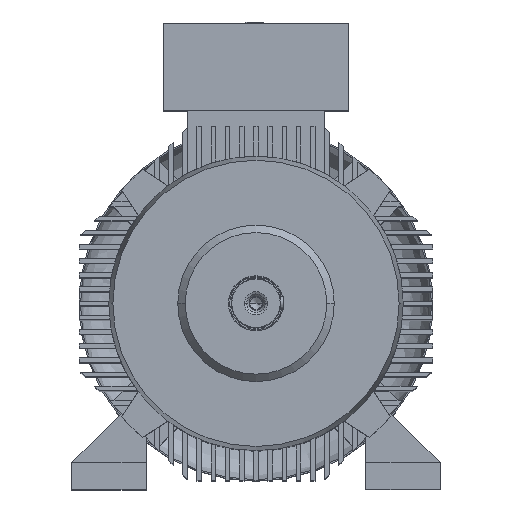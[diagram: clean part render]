
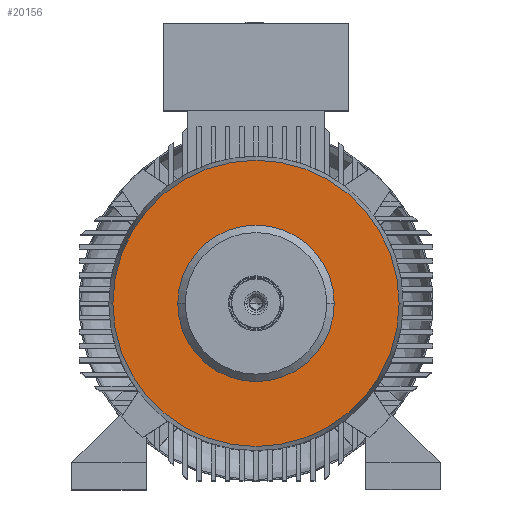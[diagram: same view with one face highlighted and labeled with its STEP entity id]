
A CAD part, top view. The second image highlights one B-rep face of the part: STEP entity #20156.
In plain terms, the highlighted planar face has unit normal (0, 0, 1).
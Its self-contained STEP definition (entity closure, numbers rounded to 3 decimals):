
#649 = DIRECTION ( 'NONE',  ( -1., 0., 0. ) ) ;
#1518 = VERTEX_POINT ( 'NONE', #11494 ) ;
#2300 = ORIENTED_EDGE ( 'NONE', *, *, #15307, .F. ) ;
#3461 = EDGE_CURVE ( 'NONE', #12758, #1518, #13097, .T. ) ;
#3796 = DIRECTION ( 'NONE',  ( 0., 1., 0. ) ) ;
#5723 = AXIS2_PLACEMENT_3D ( 'NONE', #11812, #20814, #11053 ) ;
#6678 = FACE_BOUND ( 'NONE', #21939, .T. ) ;
#6787 = DIRECTION ( 'NONE',  ( 0., 0., 1. ) ) ;
#8593 = FACE_OUTER_BOUND ( 'NONE', #24052, .T. ) ;
#8952 = AXIS2_PLACEMENT_3D ( 'NONE', #26223, #16178, #10450 ) ;
#10023 = AXIS2_PLACEMENT_3D ( 'NONE', #24322, #24752, #649 ) ;
#10450 = DIRECTION ( 'NONE',  ( -1., 0., 0. ) ) ;
#10769 = DIRECTION ( 'NONE',  ( -1., 0., 0. ) ) ;
#11053 = DIRECTION ( 'NONE',  ( -1., 0., 0. ) ) ;
#11312 = PLANE ( 'NONE',  #24511 ) ;
#11494 = CARTESIAN_POINT ( 'NONE',  ( 215.597, 0., 386.3 ) ) ;
#11812 = CARTESIAN_POINT ( 'NONE',  ( 0., 0., 386.3 ) ) ;
#12758 = VERTEX_POINT ( 'NONE', #18224 ) ;
#13097 = CIRCLE ( 'NONE', #10023, 215.597 ) ;
#13348 = CARTESIAN_POINT ( 'NONE',  ( 0., 215.597, 386.3 ) ) ;
#14757 = VERTEX_POINT ( 'NONE', #17838 ) ;
#15307 = EDGE_CURVE ( 'NONE', #22263, #14757, #25254, .T. ) ;
#15859 = EDGE_CURVE ( 'NONE', #1518, #12758, #19225, .T. ) ;
#15945 = AXIS2_PLACEMENT_3D ( 'NONE', #24859, #6787, #10769 ) ;
#16178 = DIRECTION ( 'NONE',  ( 0., 0., 1. ) ) ;
#16399 = CIRCLE ( 'NONE', #15945, 117.8 ) ;
#17000 = ORIENTED_EDGE ( 'NONE', *, *, #23233, .F. ) ;
#17838 = CARTESIAN_POINT ( 'NONE',  ( 117.8, 0., 386.3 ) ) ;
#18224 = CARTESIAN_POINT ( 'NONE',  ( -215.597, 0., 386.3 ) ) ;
#19225 = CIRCLE ( 'NONE', #5723, 215.597 ) ;
#19846 = ORIENTED_EDGE ( 'NONE', *, *, #3461, .F. ) ;
#20156 = ADVANCED_FACE ( 'NONE', ( #8593, #6678 ), #11312, .F. ) ;
#20795 = ORIENTED_EDGE ( 'NONE', *, *, #15859, .F. ) ;
#20814 = DIRECTION ( 'NONE',  ( 0., 0., -1. ) ) ;
#21939 = EDGE_LOOP ( 'NONE', ( #2300, #17000 ) ) ;
#22263 = VERTEX_POINT ( 'NONE', #22358 ) ;
#22358 = CARTESIAN_POINT ( 'NONE',  ( -117.8, 0., 386.3 ) ) ;
#23233 = EDGE_CURVE ( 'NONE', #14757, #22263, #16399, .T. ) ;
#24052 = EDGE_LOOP ( 'NONE', ( #19846, #20795 ) ) ;
#24322 = CARTESIAN_POINT ( 'NONE',  ( 0., 0., 386.3 ) ) ;
#24511 = AXIS2_PLACEMENT_3D ( 'NONE', #13348, #25589, #3796 ) ;
#24752 = DIRECTION ( 'NONE',  ( 0., 0., -1. ) ) ;
#24859 = CARTESIAN_POINT ( 'NONE',  ( 0., 0., 386.3 ) ) ;
#25254 = CIRCLE ( 'NONE', #8952, 117.8 ) ;
#25589 = DIRECTION ( 'NONE',  ( 0., 0., -1. ) ) ;
#26223 = CARTESIAN_POINT ( 'NONE',  ( 0., 0., 386.3 ) ) ;
